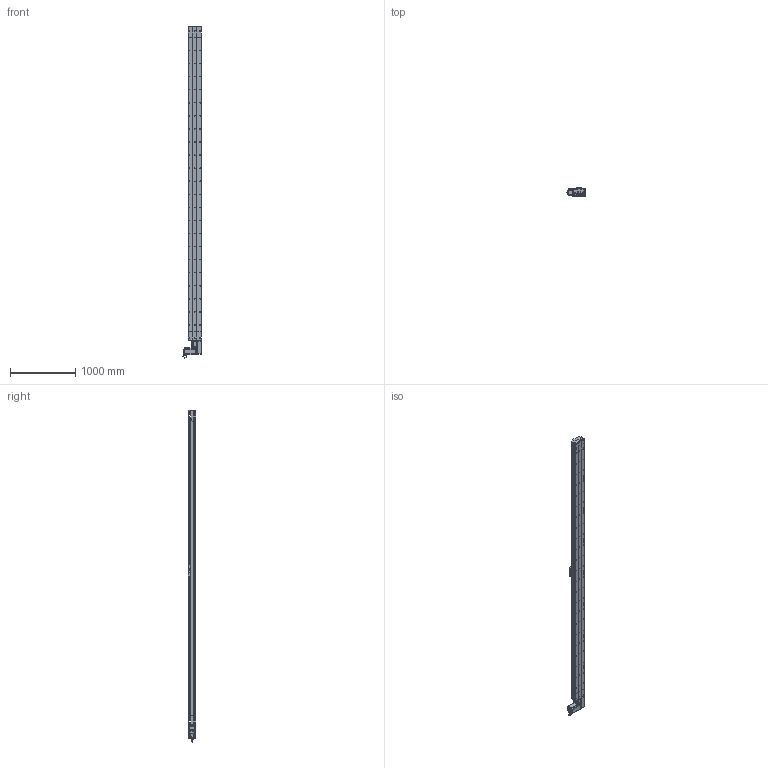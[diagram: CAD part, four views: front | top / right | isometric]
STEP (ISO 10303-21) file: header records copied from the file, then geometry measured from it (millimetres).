
FILE_DESCRIPTION (( 'STEP AP214' ), '1' );
FILE_NAME ('D20 TBH LH S4500.STEP', '2010-07-01T09:32:27', ( 'Conseil Régional Haute-Normandie' ), ( 'Conseil Régional Haute-Normandie' ), 'SwSTEP 2.0', 'SolidWorks 2010', '' );
FILE_SCHEMA (( 'AUTOMOTIVE_DESIGN' ));
Length unit declared in the file: millimetre
Products named in the file (40): Conecteur2_Default; codeur 110BLDC170A-630x; Conecteur_Default; vis M8 L12_Default; guide D20B; Chariot D20B; chariot D20B_Default; plaque de  bout tail D20_Default; poulie tail D20_Default; corpl tail D20 +100_Default; clavette; tail D20+100_Default; vis M5 L12_Default; tete d''axe poulie D20B; couvercle tail D20_Default; Couroie tail D20_Default; rail tail D20; vis M5 L8 90°_Default; vis M5 L25_Default; corps 110BLDC170A-630x; avant 110BLDC170A-630x; D20 TBH LH S4500; Moteur motionking 110BLDC170A-640x; couroie_Default; cache D20_Default; vis M5 L70_Default; Plaque racord D20LH_Default; Renvoi LH D20_Default; vis M5 L5_Default; cache arbre D20_Default; plaque de  bout head D20B LH_Default; poulie head D20_Default; couvercle head D20_Default; rail head D20; corpl head D20_Default; head LH_Default; rail + couroie  D20 S4500; couvercle D20 S4500_Default; corp D20 S4500_Default; Course B L4500_Default
Assembly tree (71 placements, depth 4):
  D20 TBH LH S4500
    head LH_Default
      couvercle head D20_Default
      vis M5 L12_Default  x10
      vis M5 L70_Default  x4
      couroie_Default
      vis M8 L12_Default  x4
      Plaque racord D20LH_Default
      cache arbre D20_Default
      vis M5 L5_Default  x4
      Renvoi LH D20_Default
      plaque de  bout head D20B LH_Default
      vis M5 L25_Default  x2
      rail head D20
      cache D20_Default  x2
      corpl head D20_Default
      Moteur motionking 110BLDC170A-640x
        Conecteur2_Default
        clavette
        avant 110BLDC170A-630x
        corps 110BLDC170A-630x
        codeur 110BLDC170A-630x
        Conecteur_Default
      poulie head D20_Default
    tail D20+100_Default
      vis M5 L12_Default  x4
      couvercle tail D20_Default
      vis M5 L25_Default  x2
      poulie tail D20_Default
      rail tail D20
      tete d''axe poulie D20B
      Couroie tail D20_Default
      plaque de  bout tail D20_Default
      corpl tail D20 +100_Default
      vis M5 L8 90°_Default  x2
    Course B L4500_Default
      couvercle D20 S4500_Default
      corp D20 S4500_Default
      rail + couroie  D20 S4500
    chariot D20B_Default
      guide D20B  x2
      vis M5 L12_Default  x4
      Chariot D20B
Bounding box: 304.2 x 115.7 x 5080 mm (x, y, z)
Volume: 37351481.2 mm3; surface area: 9379512.8 mm2
Topology: 95 solids, 95 shells, 3000 faces, 7866 edges, 5095 vertices
Faces by surface type: plane 1671, cylinder 1005, bspline 136, cone 99, torus 89
Entity records: 100205 total; most frequent: CARTESIAN_POINT 33219, ORIENTED_EDGE 12388, DIRECTION 11533, EDGE_CURVE 6194, VERTEX_POINT 4081, AXIS2_PLACEMENT_3D 3863, VECTOR 3807, LINE 3807
